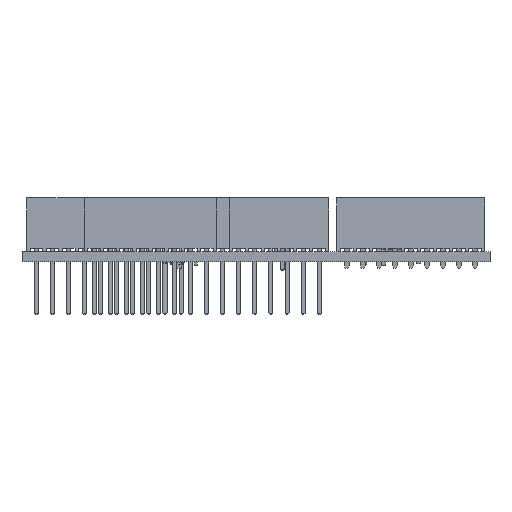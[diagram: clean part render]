
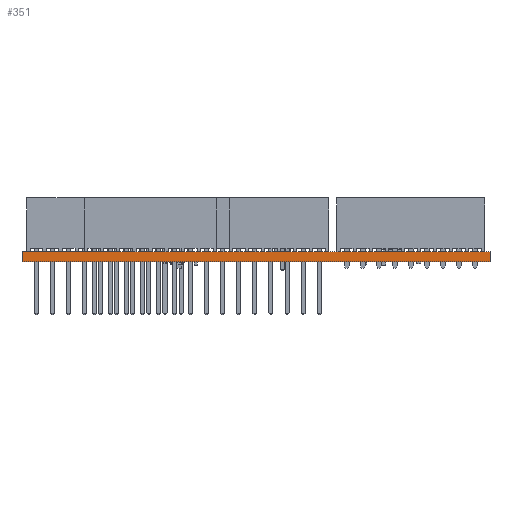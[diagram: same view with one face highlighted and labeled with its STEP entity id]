
A CAD part, front view. The second image highlights one B-rep face of the part: STEP entity #351.
In plain terms, the highlighted planar face has unit normal (0, -1, 0).
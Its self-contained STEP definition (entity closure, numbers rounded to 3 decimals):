
#129 = EDGE_CURVE('',#130,#132,#134,.T.);
#130 = VERTEX_POINT('',#131);
#131 = CARTESIAN_POINT('',(0.,0.,0.));
#132 = VERTEX_POINT('',#133);
#133 = CARTESIAN_POINT('',(0.,0.,1.6));
#134 = LINE('',#135,#136);
#135 = CARTESIAN_POINT('',(0.,0.,0.));
#136 = VECTOR('',#137,1.);
#137 = DIRECTION('',(0.,0.,1.));
#326 = VERTEX_POINT('',#327);
#327 = CARTESIAN_POINT('',(74.,0.,1.6));
#333 = EDGE_CURVE('',#334,#326,#336,.T.);
#334 = VERTEX_POINT('',#335);
#335 = CARTESIAN_POINT('',(74.,0.,0.));
#336 = LINE('',#337,#338);
#337 = CARTESIAN_POINT('',(74.,0.,0.));
#338 = VECTOR('',#339,1.);
#339 = DIRECTION('',(0.,0.,1.));
#351 = ADVANCED_FACE('',(#352),#368,.T.);
#352 = FACE_BOUND('',#353,.T.);
#353 = EDGE_LOOP('',(#354,#355,#361,#362));
#354 = ORIENTED_EDGE('',*,*,#333,.T.);
#355 = ORIENTED_EDGE('',*,*,#356,.T.);
#356 = EDGE_CURVE('',#326,#132,#357,.T.);
#357 = LINE('',#358,#359);
#358 = CARTESIAN_POINT('',(74.,0.,1.6));
#359 = VECTOR('',#360,1.);
#360 = DIRECTION('',(-1.,0.,0.));
#361 = ORIENTED_EDGE('',*,*,#129,.F.);
#362 = ORIENTED_EDGE('',*,*,#363,.F.);
#363 = EDGE_CURVE('',#334,#130,#364,.T.);
#364 = LINE('',#365,#366);
#365 = CARTESIAN_POINT('',(74.,0.,0.));
#366 = VECTOR('',#367,1.);
#367 = DIRECTION('',(-1.,0.,0.));
#368 = PLANE('',#369);
#369 = AXIS2_PLACEMENT_3D('',#370,#371,#372);
#370 = CARTESIAN_POINT('',(74.,0.,0.));
#371 = DIRECTION('',(0.,-1.,0.));
#372 = DIRECTION('',(-1.,0.,0.));
